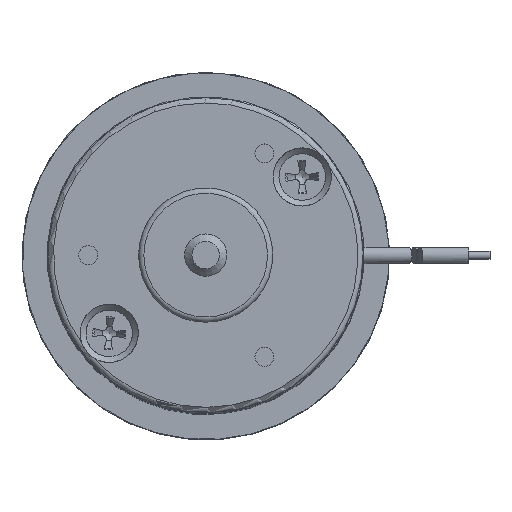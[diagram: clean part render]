
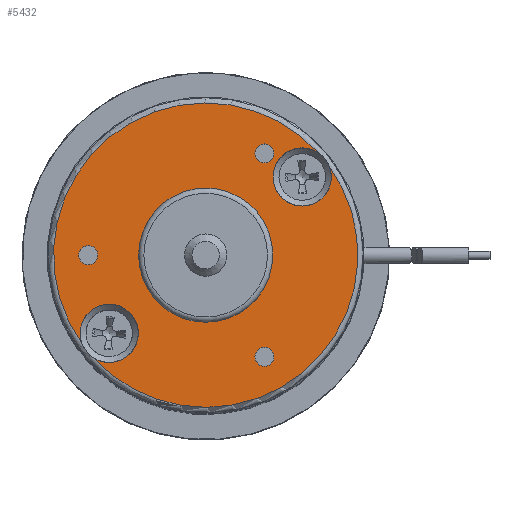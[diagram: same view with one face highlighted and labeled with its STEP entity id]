
A CAD part, top view. The second image highlights one B-rep face of the part: STEP entity #5432.
In plain terms, the highlighted planar face has unit normal (0, 0, 1).
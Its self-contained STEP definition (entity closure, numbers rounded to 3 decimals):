
#5345=CARTESIAN_POINT('',(0.,0.,83.0));
#5346=DIRECTION('',(0.0,0.0,-1.0));
#5347=DIRECTION('',(0.0,1.0,0.0));
#5348=AXIS2_PLACEMENT_3D('',#5345,#5346,#5347);
#5349=PLANE('',#5348);
#5350=CARTESIAN_POINT('',(11.685,8.416,83.0));
#5351=VERTEX_POINT('',#5350);
#5352=CARTESIAN_POINT('',(10.661,9.68,83.0));
#5353=VERTEX_POINT('',#5352);
#5354=CARTESIAN_POINT('',(9.131,7.395,83.0));
#5355=DIRECTION('',(0.0,0.0,-1.0));
#5356=DIRECTION('',(0.0,-1.0,0.0));
#5357=AXIS2_PLACEMENT_3D('',#5354,#5355,#5356);
#5358=CIRCLE('',#5357,2.75);
#5359=EDGE_CURVE('',#5351,#5353,#5358,.T.);
#5360=ORIENTED_EDGE('',*,*,#5359,.T.);
#5361=CARTESIAN_POINT('',(-11.685,-8.416,83.0));
#5362=VERTEX_POINT('',#5361);
#5363=CARTESIAN_POINT('',(0.,0.,83.0));
#5364=DIRECTION('',(0.0,0.0,-1.0));
#5365=DIRECTION('',(0.0,-1.0,0.0));
#5366=AXIS2_PLACEMENT_3D('',#5363,#5364,#5365);
#5367=CIRCLE('',#5366,14.4);
#5368=EDGE_CURVE('',#5362,#5353,#5367,.T.);
#5369=ORIENTED_EDGE('',*,*,#5368,.F.);
#5370=CARTESIAN_POINT('',(-10.661,-9.68,83.0));
#5371=VERTEX_POINT('',#5370);
#5372=CARTESIAN_POINT('',(-9.131,-7.395,83.0));
#5373=DIRECTION('',(0.0,0.0,-1.0));
#5374=DIRECTION('',(0.0,-1.0,0.0));
#5375=AXIS2_PLACEMENT_3D('',#5372,#5373,#5374);
#5376=CIRCLE('',#5375,2.75);
#5377=EDGE_CURVE('',#5362,#5371,#5376,.T.);
#5378=ORIENTED_EDGE('',*,*,#5377,.T.);
#5379=CARTESIAN_POINT('',(0.,0.,83.0));
#5380=DIRECTION('',(0.0,0.0,-1.0));
#5381=DIRECTION('',(0.0,-1.0,0.0));
#5382=AXIS2_PLACEMENT_3D('',#5379,#5380,#5381);
#5383=CIRCLE('',#5382,14.4);
#5384=EDGE_CURVE('',#5351,#5371,#5383,.T.);
#5385=ORIENTED_EDGE('',*,*,#5384,.F.);
#5386=EDGE_LOOP('',(#5360,#5369,#5378,#5385));
#5387=FACE_OUTER_BOUND('',#5386,.T.);
#5388=CARTESIAN_POINT('',(5.556,-10.524,83.0));
#5389=VERTEX_POINT('',#5388);
#5390=CARTESIAN_POINT('',(5.556,-9.624,83.0));
#5391=DIRECTION('',(0.0,0.0,-1.0));
#5392=DIRECTION('',(0.0,-1.0,0.0));
#5393=AXIS2_PLACEMENT_3D('',#5390,#5391,#5392);
#5394=CIRCLE('',#5393,0.9);
#5395=EDGE_CURVE('',#5389,#5389,#5394,.T.);
#5396=ORIENTED_EDGE('',*,*,#5395,.T.);
#5397=EDGE_LOOP('',(#5396));
#5398=FACE_BOUND('',#5397,.T.);
#5399=CARTESIAN_POINT('',(5.556,8.724,83.0));
#5400=VERTEX_POINT('',#5399);
#5401=CARTESIAN_POINT('',(5.556,9.624,83.0));
#5402=DIRECTION('',(0.0,0.0,-1.0));
#5403=DIRECTION('',(0.0,-1.0,0.0));
#5404=AXIS2_PLACEMENT_3D('',#5401,#5402,#5403);
#5405=CIRCLE('',#5404,0.9);
#5406=EDGE_CURVE('',#5400,#5400,#5405,.T.);
#5407=ORIENTED_EDGE('',*,*,#5406,.T.);
#5408=EDGE_LOOP('',(#5407));
#5409=FACE_BOUND('',#5408,.T.);
#5410=CARTESIAN_POINT('',(-11.113,-0.9,83.0));
#5411=VERTEX_POINT('',#5410);
#5412=CARTESIAN_POINT('',(-11.113,0.,83.0));
#5413=DIRECTION('',(0.0,0.0,-1.0));
#5414=DIRECTION('',(0.0,-1.0,0.0));
#5415=AXIS2_PLACEMENT_3D('',#5412,#5413,#5414);
#5416=CIRCLE('',#5415,0.9);
#5417=EDGE_CURVE('',#5411,#5411,#5416,.T.);
#5418=ORIENTED_EDGE('',*,*,#5417,.T.);
#5419=EDGE_LOOP('',(#5418));
#5420=FACE_BOUND('',#5419,.T.);
#5421=CARTESIAN_POINT('',(0.,-6.35,83.0));
#5422=VERTEX_POINT('',#5421);
#5423=CARTESIAN_POINT('',(0.,0.,83.0));
#5424=DIRECTION('',(0.0,0.0,-1.0));
#5425=DIRECTION('',(0.0,1.0,0.0));
#5426=AXIS2_PLACEMENT_3D('',#5423,#5424,#5425);
#5427=CIRCLE('',#5426,6.35);
#5428=EDGE_CURVE('',#5422,#5422,#5427,.T.);
#5429=ORIENTED_EDGE('',*,*,#5428,.T.);
#5430=EDGE_LOOP('',(#5429));
#5431=FACE_BOUND('',#5430,.T.);
#5432=ADVANCED_FACE('',(#5387,#5398,#5409,#5420,#5431),#5349,.F.);
